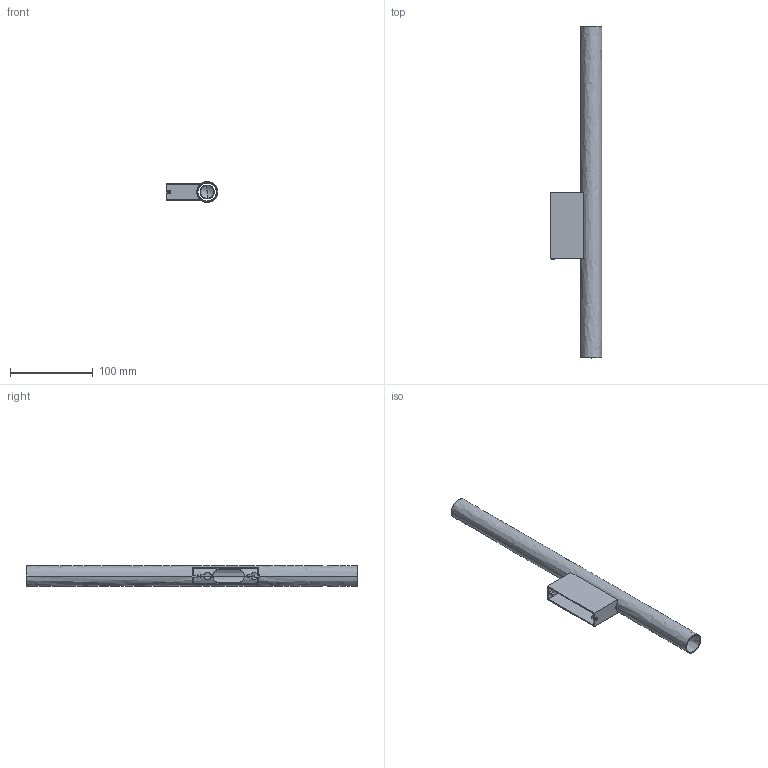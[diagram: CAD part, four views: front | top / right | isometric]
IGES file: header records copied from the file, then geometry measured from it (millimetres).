
Start section: SolidWorks IGES file using analytic representation for surfaces
Global section: file name: Z:\Modele 3D_WWW\_KOLEKCJE_WWW\LASER-WALL-II-8308-8048-8047\LASER-WALL-II-8308-8048-8047.IGS; native system: SolidWorks 2021; preprocessor: SolidWorks 2021; author: gabriela.tworek; date: 210715.094737; units: millimetre
Bounding box: 61.67 x 400 x 25 mm (x, y, z)
Surface area: 81844.9 mm2 (no closed solid volume)
Topology: 0 solids, 0 shells, 267 faces, 2550 edges, 2518 vertices
Faces by surface type: revolution 154, bspline 113
